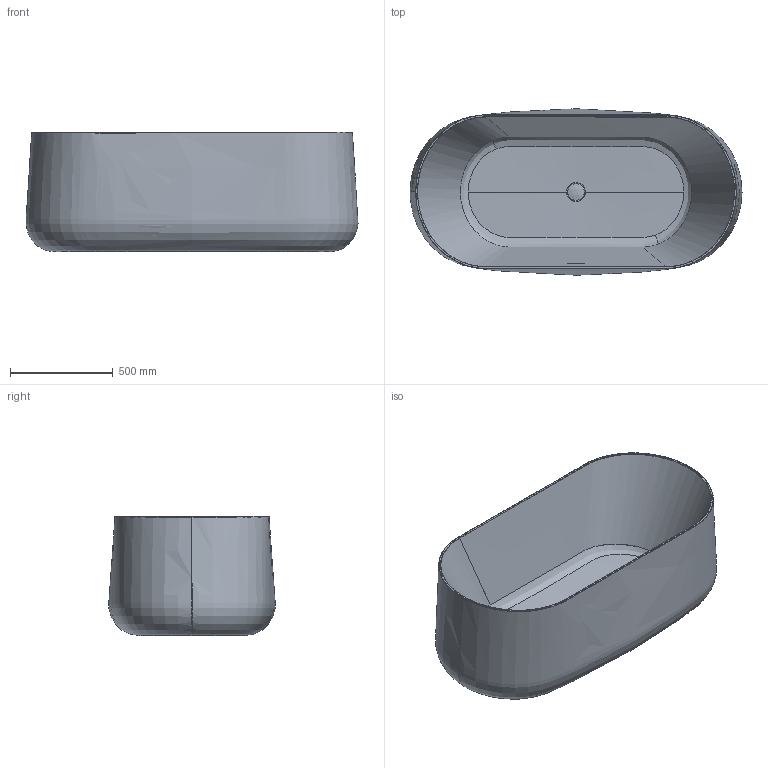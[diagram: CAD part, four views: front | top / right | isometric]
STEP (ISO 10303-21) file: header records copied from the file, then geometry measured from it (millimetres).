
FILE_DESCRIPTION (( 'STEP AP203' ), '1' );
FILE_NAME ('AUR 113.STEP', '2025-04-15T16:01:28', ( '' ), ( '' ), 'SwSTEP 2.0', 'SolidWorks 2024', '' );
FILE_SCHEMA (( 'CONFIG_CONTROL_DESIGN' ));
Length unit declared in the file: millimetre
Products named in the file (1): AUR 113
Bounding box: 1617.12 x 810.65 x 580.54 mm (x, y, z)
Volume: 21720931.5 mm3; surface area: 9705728.1 mm2
Topology: 2 solids, 2 shells, 56 faces, 153 edges, 104 vertices
Faces by surface type: bspline 38, plane 10, cylinder 3, torus 3, cone 1, sphere 1
Full cylindrical faces by diameter (mm): 50 x1, 60 x1, 82.383 x1
Entity records: 33948 total; most frequent: CARTESIAN_POINT 32845, ORIENTED_EDGE 294, EDGE_CURVE 147, B_SPLINE_CURVE_WITH_KNOTS 122, VERTEX_POINT 103, DIRECTION 75, EDGE_LOOP 68, FACE_OUTER_BOUND 60
